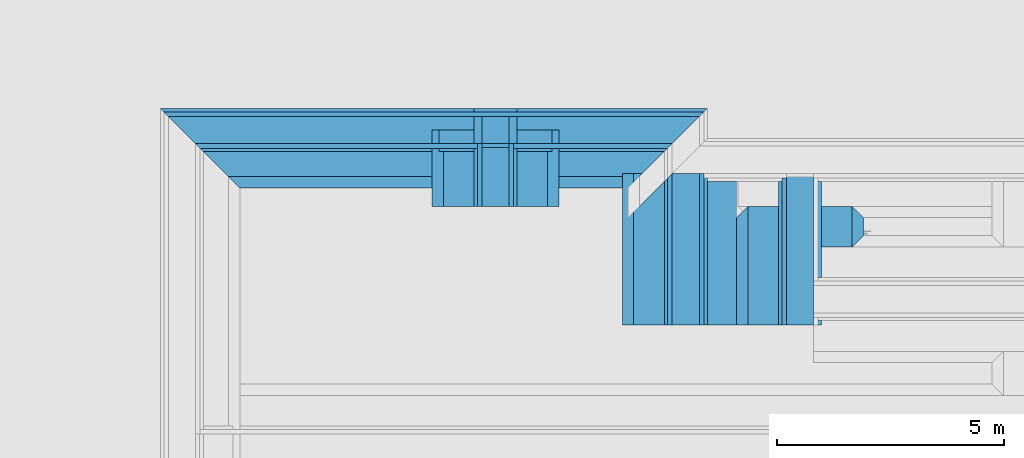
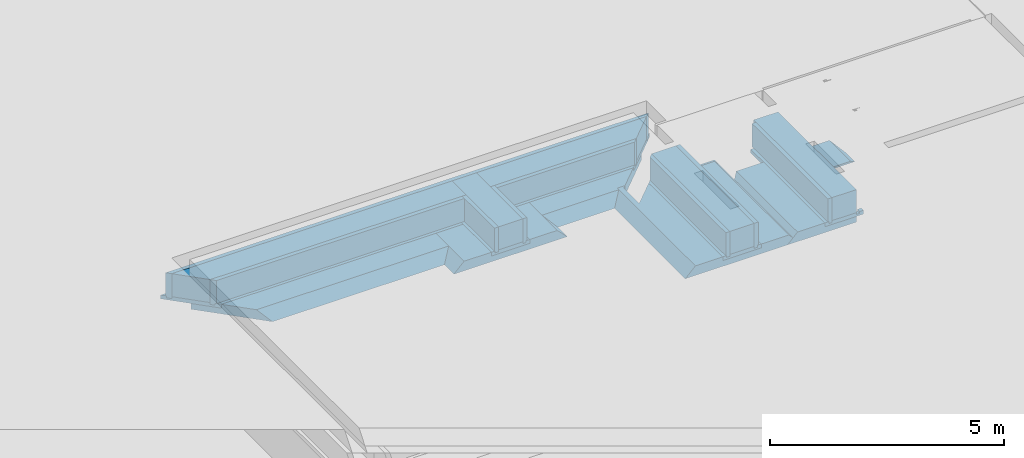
# One storey, part 3 of 15: 19 building element parts, 4 elements without a shape of their own.
"""IFC2X3 building model written with IfcOpenShell, lengths in millimetres."""

import ifcopenshell
import ifcopenshell.guid

model = None  # the IFC model being written
_history = None  # IfcOwnerHistory: only IFC2X3 demands one
_inside = {}  # id of a spatial element -> (the spatial element, [elements in it])
_under = {}  # id of a project, library or spatial element -> (it, [spatial elements below it])
_declared = {}  # id of a project -> (the project, [libraries it declares])
_typed = {}  # id of a type object -> (the type object, [elements of that type])
_made_of = {}  # id of a material, layer set ... -> (it, [elements and type objects made of it])


def new_model(schema):
    """Start an empty IFC model of exactly this schema.

    Asked for "IFC4X3", IfcOpenShell would pick the latest addendum, in which some entities
    have other attributes; the version numbers below select the first issue.
    IFC2X3 requires an IfcOwnerHistory on every rooted entity: one is made here for all.
    """
    global model, _history
    if schema == "IFC4X3":
        model = ifcopenshell.file(schema_version=(4, 3, 0, 0))
    else:
        model = ifcopenshell.file(schema=schema)
    _inside.clear()
    _under.clear()
    _declared.clear()
    _typed.clear()
    _made_of.clear()
    _history = None
    if model.schema == "IFC2X3":
        org = make("IfcOrganization", Name="unknown")
        user = make(
            "IfcPersonAndOrganization",
            ThePerson=make("IfcPerson", FamilyName="unknown"),
            TheOrganization=org,
        )
        app = make(
            "IfcApplication",
            ApplicationDeveloper=org,
            Version="unknown",
            ApplicationFullName="unknown",
            ApplicationIdentifier="unknown",
        )
        _history = make(
            "IfcOwnerHistory",
            OwningUser=user,
            OwningApplication=app,
            ChangeAction="ADDED",
            CreationDate=0,
        )
    return model


def make(cls, **values):
    """One entity of the class cls with the attributes given. An attribute that is None is left unset."""
    return model.create_entity(
        cls, **{name: value for name, value in values.items() if value is not None}
    )


def entity(cls, *values):
    """Any entity or typed value of the class cls, its attributes in the order of the schema. None: left unset."""
    e = model.create_entity(cls)
    for i, value in enumerate(values):
        if value is not None:
            e[i] = value
    return e


def rooted(cls, **values):
    """An entity with a GlobalId (a new one), such as an element, a storey or a relation."""
    return make(cls, GlobalId=ifcopenshell.guid.new(), OwnerHistory=_history, **values)


def si_unit(unit_type, name, prefix=None):
    """IfcSIUnit, for example si_unit("LENGTHUNIT", "METRE", prefix="MILLI")."""
    return make("IfcSIUnit", UnitType=unit_type, Prefix=prefix, Name=name)


def converted_unit(unit_type, name, factor, base, dimensions=None, offset=None):
    """IfcConversionBasedUnit, such as the inch: factor (a typed value) times the base unit."""
    return make(
        "IfcConversionBasedUnit"
        if offset is None
        else "IfcConversionBasedUnitWithOffset",
        ConversionOffset=offset,
        Dimensions=None
        if dimensions is None
        else entity("IfcDimensionalExponents", *dimensions),
        UnitType=unit_type,
        Name=name,
        ConversionFactor=make(
            "IfcMeasureWithUnit", ValueComponent=factor, UnitComponent=base
        ),
    )


def derived_unit(unit_type, elements):
    """IfcDerivedUnit: a product of units, each with its exponent."""
    return make(
        "IfcDerivedUnit",
        Elements=[
            make("IfcDerivedUnitElement", Unit=unit, Exponent=power)
            for unit, power in elements
        ],
        UnitType=unit_type,
    )


def money_unit(currency):
    """IfcMonetaryUnit."""
    return make("IfcMonetaryUnit", Currency=currency)


def assignment(units):
    """IfcUnitAssignment: the units of a project."""
    return None if units is None else make("IfcUnitAssignment", Units=units)


def point(xyz):
    """IfcCartesianPoint."""
    return None if xyz is None else make("IfcCartesianPoint", Coordinates=xyz)


def direction(xyz):
    """IfcDirection."""
    return None if xyz is None else make("IfcDirection", DirectionRatios=xyz)


def frame(location, z_axis=None, x_axis=None):
    """IfcAxis2Placement3D, a coordinate frame: its origin and axes. An axis left out is left unset."""
    return make(
        "IfcAxis2Placement3D",
        Location=point(location),
        Axis=direction(z_axis),
        RefDirection=direction(x_axis),
    )


def origin_with_axes():
    """The frame at (0, 0, 0) with the z axis (0, 0, 1) and the x axis (1, 0, 0) written out."""
    return frame((0.0, 0.0, 0.0), z_axis=(0.0, 0.0, 1.0), x_axis=(1.0, 0.0, 0.0))


def place(relative_to, where):
    """IfcLocalPlacement: puts the frame where relative to a parent placement (None: the world)."""
    return make(
        "IfcLocalPlacement", PlacementRelTo=relative_to, RelativePlacement=where
    )


def context(
    kind, dimensions, precision=None, world=None, true_north=None, identifier=None
):
    """IfcGeometricRepresentationContext, for example the 3D "Model" context."""
    return make(
        "IfcGeometricRepresentationContext",
        ContextIdentifier=identifier,
        ContextType=kind,
        CoordinateSpaceDimension=dimensions,
        Precision=precision,
        WorldCoordinateSystem=world,
        TrueNorth=true_north,
    )


def subcontext(parent, identifier, kind, view, scale=None):
    """IfcGeometricRepresentationSubContext, for example "Body" below "Model"."""
    return make(
        "IfcGeometricRepresentationSubContext",
        ContextIdentifier=identifier,
        ContextType=kind,
        ParentContext=parent,
        TargetScale=scale,
        TargetView=view,
    )


def project(units=None, contexts=None):
    """IfcProject with its units and contexts."""
    return rooted(
        "IfcProject",
        Name="project",
        RepresentationContexts=contexts,
        UnitsInContext=assignment(units),
    )


def spatial(cls, under=None, at=None, **own):
    """A site, building, storey or space (cls), placed at a placement, below another one or the project."""
    s = rooted(cls, ObjectPlacement=at, **own)
    if under is not None:
        _under.setdefault(under.id(), (under, []))[1].append(s)
    return s


def faces_of(points, faces, orient=None, outer=None):
    """IfcFace entities. A face is a list of loops; a loop is a list of indices into points, from 0.

    orient and outer hold one flag for each loop. By default every Orientation is true, the
    first loop of a face is its IfcFaceOuterBound and the others are IfcFaceBound.
    """
    made = []
    for i, loops in enumerate(faces):
        bounds = []
        for j, loop in enumerate(loops):
            is_outer = j == 0 if outer is None else outer[i][j]
            bounds.append(
                make(
                    "IfcFaceOuterBound" if is_outer else "IfcFaceBound",
                    Bound=make("IfcPolyLoop", Polygon=[points[k] for k in loop]),
                    Orientation=True if orient is None else orient[i][j],
                )
            )
        made.append(make("IfcFace", Bounds=bounds))
    return made


def faceted_brep(points, faces, orient=None, outer=None, voids=None):
    """IfcFacetedBrep: a solid bounded by flat faces; with voids (closed shells), ...WithVoids."""
    shared = [point(p) for p in points]
    hull = make("IfcClosedShell", CfsFaces=faces_of(shared, faces, orient, outer))
    if voids is None:
        return make("IfcFacetedBrep", Outer=hull)
    return make(
        "IfcFacetedBrepWithVoids",
        Outer=hull,
        Voids=[
            make(cls, CfsFaces=faces_of(shared, fs, o, b)) for cls, fs, o, b in voids
        ],
    )


def shape(context_of_items, identifier, shape_type, items):
    """IfcShapeRepresentation: the items that make up one representation, for example the "Body"."""
    return make(
        "IfcShapeRepresentation",
        ContextOfItems=context_of_items,
        RepresentationIdentifier=identifier,
        RepresentationType=shape_type,
        Items=items,
    )


def material(Name=None, Category=None):
    """IfcMaterial."""
    return make("IfcMaterial", Name=Name, Category=Category)


def made_of(thing, what):
    """Note that an element or type object is made of a material, layer set ...; save() writes the relation."""
    if what is not None:
        _made_of.setdefault(what.id(), (what, []))[1].append(thing)
    return thing


def type_object(cls, material=None, **own):
    """A type object (cls), such as IfcWallType, which elements share."""
    return made_of(rooted(cls, **own), material)


def element(
    cls,
    number,
    at=None,
    inside=None,
    cuts=None,
    type_object=None,
    material=None,
    context=None,
    identifier="Body",
    shape_type=None,
    held_by="IfcProductDefinitionShape",
    body=None,
    shapes=None,
    **own,
):
    """One element of the class cls, such as IfcWall. Its Tag is "e" and its number.

    at: its placement. inside: the storey or other place that contains it. cuts: it is an
    opening in that element (IfcRelVoidsElement). A single representation is given by context,
    identifier, shape_type and body (its items); several are given by shapes. held_by: the class
    of the entity that holds the representations. save() writes the other relations.
    """
    e = rooted(cls, Tag="e%d" % number, ObjectPlacement=at, **own)
    if body is not None:
        shapes = [shape(context, identifier, shape_type, body)]
    if shapes is not None:
        e.Representation = make(held_by, Representations=shapes)
    if inside is not None:
        _inside.setdefault(inside.id(), (inside, []))[1].append(e)
    if cuts is not None:
        rooted(
            "IfcRelVoidsElement", RelatingBuildingElement=cuts, RelatedOpeningElement=e
        )
    if type_object is not None:
        _typed.setdefault(type_object.id(), (type_object, []))[1].append(e)
    return made_of(e, material)


def aggregate(whole, parts):
    """IfcRelAggregates: a whole, such as a stair, and the parts it consists of."""
    return rooted("IfcRelAggregates", RelatingObject=whole, RelatedObjects=parts)


def save(model, path):
    """Write the relations noted so far, then the file.

    IfcRelAggregates (storeys below a building ...), IfcRelContainedInSpatialStructure (elements
    in a storey), IfcRelDefinesByType, IfcRelAssociatesMaterial and IfcRelDeclares: one each for
    every whole, place, type object, material and project.
    """
    for whole, parts in _under.values():
        aggregate(whole, parts)
    for where, things in _inside.values():
        rooted(
            "IfcRelContainedInSpatialStructure",
            RelatedElements=things,
            RelatingStructure=where,
        )
    for kind, things in _typed.values():
        rooted("IfcRelDefinesByType", RelatedObjects=things, RelatingType=kind)
    for what, things in _made_of.values():
        rooted("IfcRelAssociatesMaterial", RelatedObjects=things, RelatingMaterial=what)
    for by, libraries in _declared.values():
        rooted("IfcRelDeclares", RelatingContext=by, RelatedDefinitions=libraries)
    model.write(path)


model = new_model("IFC2X3")

# Units and contexts
model_context = context("Model", 3, precision=0.01, world=origin_with_axes(), true_north=direction((0.0, 1.0)))
plan_context = context("Plan", 3, precision=0.01, world=origin_with_axes(), true_north=direction((0.0, 1.0)))
body_context = subcontext(model_context, "Body", "Model", "MODEL_VIEW")
ifc_project = project(units=[si_unit("LENGTHUNIT", "METRE", prefix="MILLI"), si_unit("AREAUNIT", "SQUARE_METRE"), si_unit("VOLUMEUNIT", "CUBIC_METRE"), converted_unit("PLANEANGLEUNIT", "DEGREE", entity("IfcPlaneAngleMeasure", 0.0174532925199), si_unit("PLANEANGLEUNIT", "RADIAN"), dimensions=[0, 0, 0, 0, 0, 0, 0]), money_unit("EUR"), converted_unit("TIMEUNIT", "Year", entity("IfcTimeMeasure", 31556926.0), si_unit("TIMEUNIT", "SECOND"), dimensions=[0, 0, 1, 0, 0, 0, 0]), si_unit("MASSUNIT", "GRAM", prefix="KILO"), si_unit("THERMODYNAMICTEMPERATUREUNIT", "DEGREE_CELSIUS"), si_unit("LUMINOUSINTENSITYUNIT", "LUMEN"), si_unit("ENERGYUNIT", "JOULE", prefix="MEGA"), derived_unit("THERMALCONDUCTANCEUNIT", [(si_unit("POWERUNIT", "WATT"), 1), (si_unit("LENGTHUNIT", "METRE"), -1), (si_unit("THERMODYNAMICTEMPERATUREUNIT", "KELVIN"), -1)]), derived_unit("SPECIFICHEATCAPACITYUNIT", [(si_unit("ENERGYUNIT", "JOULE"), 1), (si_unit("MASSUNIT", "GRAM", prefix="KILO"), -1), (si_unit("THERMODYNAMICTEMPERATUREUNIT", "KELVIN"), -1)]), derived_unit("MASSDENSITYUNIT", [(si_unit("MASSUNIT", "GRAM", prefix="KILO"), 1), (si_unit("VOLUMEUNIT", "CUBIC_METRE"), -1)])], contexts=[model_context, plan_context])

# Site, building, storey
site_placement = place(None, origin_with_axes())
site = spatial("IfcSite", under=ifc_project, at=site_placement, Name="Site", CompositionType="ELEMENT")
building_placement = place(site_placement, origin_with_axes())
building = spatial("IfcBuilding", under=site, at=building_placement, Name="Naam gebouw", CompositionType="ELEMENT")
storey_placement = place(building_placement, frame((0.0, 0.0, -1050.0), z_axis=(0.0, 0.0, 1.0), x_axis=(1.0, 0.0, 0.0)))
storey = spatial("IfcBuildingStorey", under=building, at=storey_placement, Name="fundering", CompositionType="ELEMENT", Elevation=-1050.0)

# Beam, building element parts
beam_type_1 = type_object("IfcBeamType", Name="Fundering balk IsoBouw Powerkist buitenwand 1750 x 850", PredefinedType="BEAM")
beam_1_placement = place(storey_placement, frame((4850.0, 19150.0, -60.0000017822), z_axis=(0.0, 0.0, 1.0), x_axis=(0.0, -1.0, 0.0)))
beam_1 = element("IfcBeam", 1, at=beam_1_placement, inside=storey, type_object=beam_type_1, Name="28_Balk-x", ObjectType="BEAM")
ifc_material_1 = material(Name="ALG - TERREIN")
building_element_part_1_placement = place(beam_1_placement, origin_with_axes())
building_element_part_1 = element("IfcBuildingElementPart", 2, at=building_element_part_1_placement, material=ifc_material_1, Name="ALG - TERREIN", context=body_context, shape_type="Brep", body=[
    faceted_brep([(1045.00001313, 8087.50148378, 6.43760511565e-06), (1045.00001313, 9984.99960204, -1.92126834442e-05), (974.999997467, 9984.99960204, -1.92126834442e-05), (974.999997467, 10179.9991167, -7.27431315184e-06), (495.000015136, 10659.9999696, -7.27431315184e-06), (495.00000098, 8087.50148378, 3.72342601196e-07), (1295.00000274, 8337.50149432, -249.999996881), (1295.00000274, 9734.99962438, -249.999996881), (974.999997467, 9734.99962438, -249.999996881), (974.999997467, 10179.9991167, -249.999996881), (20.0000061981, 11135.00084, -249.999996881), (20.0000061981, 11135.00084, -99.9999926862), (495.000015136, 10659.9999696, -99.9999926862), (495.00000098, 8187.50149597, -99.9999985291), (20.0000061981, 8187.50150507, -99.9999926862), (19.9999899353, 8337.50149432, -249.999996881)], [[[0, 1, 2, 3, 4, 5]], [[6, 7, 1, 0]], [[8, 2, 1, 7]], [[8, 9, 3, 2]], [[4, 3, 9, 10, 11, 12]], [[4, 12, 13, 5]], [[5, 13, 14, 15, 6, 0]], [[9, 8, 7, 6, 15, 10]], [[11, 10, 15, 14]], [[12, 11, 14, 13]]]),
    faceted_brep([(1045.00001313, 5787.49851622, 6.43760511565e-06), (495.00000098, 5787.49851622, 3.72342601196e-07), (495.000015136, 495.000015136, -7.27431315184e-06), (1045.00001313, 1045.00001313, -7.27431315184e-06), (495.00000098, 5687.49850403, -99.9999985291), (1295.00000274, 5537.49850568, -249.999996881), (19.9999899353, 5537.49850568, -249.999996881), (20.0000061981, 5687.49849493, -99.9999926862), (495.000015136, 495.000015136, -99.9999926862), (1295.00000274, 1295.00000274, -249.999996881), (20.0000061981, 20.0000061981, -99.9999926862), (20.0000061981, 20.0000061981, -249.999996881)], [[[0, 1, 2, 3]], [[4, 1, 0, 5, 6, 7]], [[1, 4, 8, 2]], [[9, 3, 2, 8, 10, 11]], [[5, 0, 3, 9]], [[6, 5, 9, 11]], [[7, 6, 11, 10]], [[4, 7, 10, 8]]]),
])
ifc_material_2 = material(Name="Isolatie - EPS")
building_element_part_2_placement = place(beam_1_placement, origin_with_axes())
building_element_part_2 = element("IfcBuildingElementPart", 3, at=building_element_part_2_placement, material=ifc_material_2, Name="Isolatie - EPS", context=body_context, shape_type="Brep", body=[
    faceted_brep([(-360.000002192, -360.000002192, -49.0824410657), (-360.000002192, 6462.49850568, -49.0824424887), (-360.000002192, 7412.50149432, -49.0824424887), (-360.000002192, 11515.0015377, -49.0824410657), (-360.000002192, 11515.0015377, 7.15338899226e-07), (-360.000002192, -360.000002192, 7.15338899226e-07), (-279.99999279, -279.99999279, -49.0824410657), (-279.99999279, 6462.49850568, -49.0824424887), (-455.00000274, 6462.49850568, -49.0824424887), (-455.00000274, 7412.50149432, -49.0824424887), (-279.99999279, 7412.50149432, -49.0824424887), (-279.99999279, 11435.0013832, -49.0824410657), (319.99999279, 10835.0003093, -49.0824410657), (400.000002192, 10755.0001548, -49.0824410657), (400.000002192, 10755.0001548, 7.15338899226e-07), (419.999990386, 10735.0001304, 7.15338899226e-07), (495.00000274, 10659.999982, 7.15338899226e-07), (495.00000274, 10659.999982, -99.9999968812), (20.0000061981, 11135.00084, -99.9999926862), (-455.00000274, 11610.0017105, -99.9999968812), (-455.00000274, 11610.0017105, 7.15338899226e-07), (-379.999990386, 11535.0015621, 7.15338899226e-07), (-279.99999279, 11435.0013832, 7.15338899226e-07), (319.99999279, 10835.0003093, 7.15338899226e-07), (-379.999990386, -379.999990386, 7.15338899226e-07), (495.00000274, 495.00000274, 7.15338899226e-07), (419.999990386, 419.999990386, 7.15338899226e-07), (400.000002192, 400.000002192, 7.15338899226e-07), (400.000002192, 400.000002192, -49.0824410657), (319.99999279, 319.99999279, -49.0824410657), (319.99999279, 319.99999279, 7.15338899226e-07), (-279.99999279, -279.99999279, 7.15338899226e-07), (-455.00000274, -455.00000274, 7.15338899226e-07), (-455.00000274, -455.00000274, -99.9999968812), (20.0000061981, 20.0000061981, -99.9999926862), (495.00000274, 495.00000274, -99.9999968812), (20.0000061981, 6462.49850568, -99.9999968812), (-455.00000274, 6462.49850568, -99.9999968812), (319.99999279, 6462.49850568, -49.0824424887), (400.000002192, 6462.49850568, -49.0824424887), (400.000002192, 6462.49850568, -3.53883433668e-06), (419.999990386, 6462.49850568, -3.43367934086e-06), (495.00000274, 6462.49850568, -3.03934810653e-06), (495.00000274, 6462.49850568, -99.9999968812), (-455.00000274, 7412.50149432, -99.9999968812), (20.0000061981, 7412.50149432, -99.9999968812), (495.00000274, 7412.50149432, -99.9999968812), (495.00000274, 7412.50149432, -3.03934810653e-06), (419.999990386, 7412.50149432, -3.43367934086e-06), (400.000002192, 7412.50149432, -3.53883433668e-06), (400.000002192, 7412.50149432, -49.0824424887), (319.99999279, 7412.50149432, -49.0824424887)], [[[0, 1, 2, 3, 4, 5]], [[6, 7, 1, 0]], [[1, 8, 9, 2]], [[3, 2, 10, 11]], [[12, 13, 14, 15, 16, 17, 18, 19, 20, 21, 4, 3, 11, 22, 23]], [[24, 5, 4, 21]], [[25, 26, 27, 28, 29, 30, 31, 6, 0, 5, 24, 32, 33, 34, 35]], [[11, 10, 7, 6, 31, 22]], [[36, 37, 8, 1, 7, 38, 39, 40, 41, 42, 43]], [[9, 8, 37, 33, 32, 20, 19, 44]], [[2, 9, 44, 45, 46, 47, 48, 49, 50, 51, 10]], [[12, 51, 50, 13]], [[13, 50, 49, 14]], [[14, 49, 48, 15]], [[15, 48, 47, 16]], [[16, 47, 46, 17]], [[17, 46, 45, 18]], [[18, 45, 44, 19]], [[32, 24, 21, 20]], [[31, 30, 23, 22]], [[29, 38, 51, 12, 23, 30]], [[25, 42, 41, 26]], [[26, 41, 40, 27]], [[27, 40, 39, 28]], [[28, 39, 38, 29]], [[33, 37, 36, 34]], [[34, 36, 43, 35]], [[35, 43, 42, 25]], [[38, 7, 10, 51]]]),
])
building_element_part_3_placement = place(beam_1_placement, origin_with_axes())
building_element_part_3 = element("IfcBuildingElementPart", 4, at=building_element_part_3_placement, material=ifc_material_2, Name="Isolatie - EPS", context=body_context, shape_type="Brep", body=[
    faceted_brep([(-359.999996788, -359.999996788, 2.28759100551e-06), (-379.999993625, -379.999993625, 2.28759100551e-06), (-379.999993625, 11535.0015654, 2.28759100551e-06), (-359.999996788, 11515.0015323, 2.28759100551e-06), (-279.999999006, -279.999999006, 600.000001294), (-379.999993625, -379.999993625, 600.000001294), (-359.999996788, -359.999996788, -49.0824424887), (-279.999999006, -279.999999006, -49.0824424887), (-379.999993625, 11535.0015654, 600.000001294), (-359.999996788, 11515.0015323, -49.0824424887), (-279.999999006, 11435.0013894, 600.000001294), (-279.999999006, 11435.0013894, -49.0824424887)], [[[0, 1, 2, 3]], [[4, 5, 1, 0, 6, 7]], [[1, 5, 8, 2]], [[9, 3, 2, 8, 10, 11]], [[6, 0, 3, 9]], [[5, 4, 10, 8]], [[7, 6, 9, 11]], [[4, 7, 11, 10]]]),
])
building_element_part_4_placement = place(beam_1_placement, origin_with_axes())
building_element_part_4 = element("IfcBuildingElementPart", 5, at=building_element_part_4_placement, material=ifc_material_2, Name="Isolatie - EPS", context=body_context, shape_type="Brep", body=[
    faceted_brep([(320.000001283, 6537.4985148, -3.53883433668e-06), (320.000001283, 6637.49850792, -3.53883433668e-06), (320.000001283, 7237.50149208, -3.53883433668e-06), (320.000001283, 7337.5014852, -3.53883433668e-06), (320.000001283, 7337.5014852, 600.000003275), (319.999999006, 10835.0003031, 600.000003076), (319.999999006, 10835.0003031, -49.0824407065), (319.999999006, 319.999999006, -49.0824407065), (319.999999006, 319.999999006, 600.000003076), (320.000001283, 6537.4985148, 600.000003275), (400.000002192, 6557.49850727, -3.53883433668e-06), (400.000002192, 6637.49851307, -3.53883433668e-06), (400.000002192, 6537.49851289, -3.53883433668e-06), (400.000002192, 7237.50148693, -3.53883433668e-06), (400.000002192, 7317.50149273, -3.53883433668e-06), (400.000002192, 7337.50148711, -3.53883433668e-06), (419.999993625, 7337.50148711, -3.43367934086e-06), (419.999993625, 7337.5014852, 600.000003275), (419.999993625, 10735.0001271, 600.000003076), (399.999996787, 10755.0001602, -49.0824407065), (419.999993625, 10735.0001271, 4.06975675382e-06), (399.999996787, 10755.0001602, 4.06975675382e-06), (399.999996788, 399.999996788, -49.0824407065), (399.999996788, 399.999996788, 4.06975675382e-06), (419.999993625, 419.999993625, 4.06975675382e-06), (419.999993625, 419.999993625, 600.000003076), (419.999993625, 6537.4985148, 600.000003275), (419.999993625, 6537.49851289, -3.43367934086e-06)], [[[0, 1, 2, 3, 4, 5, 6, 7, 8, 9]], [[10, 11, 1, 0, 12]], [[11, 13, 2, 1]], [[14, 15, 3, 2, 13]], [[15, 16, 17, 4, 3]], [[18, 5, 4, 17]], [[19, 6, 5, 18, 20, 21]], [[19, 22, 7, 6]], [[22, 23, 24, 25, 8, 7]], [[8, 25, 26, 9]], [[27, 12, 0, 9, 26]], [[13, 11, 10, 12, 23, 22, 19, 21, 15, 14]], [[21, 20, 16, 15]], [[20, 18, 17, 16]], [[24, 23, 12, 27]], [[25, 24, 27, 26]]]),
])
ifc_material_3 = material(Name="Beton gewapend C")
building_element_part_5_placement = place(beam_1_placement, origin_with_axes())
building_element_part_5 = element("IfcBuildingElementPart", 6, at=building_element_part_5_placement, material=ifc_material_3, Name="Beton gewapend C", context=body_context, shape_type="Brep", body=[
    faceted_brep([(320.0, 320.0, 600.000001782), (320.0, 6637.49850842, 600.000001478), (-280.000002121, 6637.49850842, 600.000002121), (-280.0, -280.0, 600.0), (320.0, 320.0, 1.78216552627e-06), (320.0, 6637.49850842, 0.0), (-280.000002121, 6637.49850842, 0.0), (-280.0, -280.0, 0.0)], [[[0, 1, 2, 3]], [[4, 5, 1, 0]], [[5, 6, 2, 1]], [[3, 2, 6, 7]], [[7, 4, 0, 3]], [[7, 6, 5, 4]]]),
    faceted_brep([(-280.0, 11435.0013904, 0.0), (-280.000002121, 7237.50149158, 0.0), (-280.000002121, 7237.50149158, 600.000002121), (-280.0, 11435.0013904, 600.0), (320.0, 10835.0003021, 1.78216552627e-06), (320.0, 7237.50149158, 0.0), (320.0, 7237.50149158, 600.000001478), (320.0, 10835.0003021, 600.000001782)], [[[0, 1, 2, 3]], [[4, 5, 1, 0]], [[5, 6, 2, 1]], [[3, 2, 6, 7]], [[0, 3, 7, 4]], [[7, 6, 5, 4]]]),
])
aggregate(beam_1, [building_element_part_1, building_element_part_2, building_element_part_3, building_element_part_4, building_element_part_5])

beam_type_2 = type_object("IfcBeamType", Name="Fundering balk IsoBouw Powerkist 2800 x 850", PredefinedType="BEAM")
beam_2_placement = place(storey_placement, frame((16005.0, 18175.0000025, -60.0000017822), z_axis=(0.0, 0.0, 1.0), x_axis=(-1.0, 0.0, 0.0)))
beam_2 = element("IfcBeam", 7, at=beam_2_placement, inside=storey, type_object=beam_type_2, Name="28_Balk-x", ObjectType="BEAM")
building_element_part_6_placement = place(beam_2_placement, origin_with_axes())
building_element_part_6 = element("IfcBuildingElementPart", 8, at=building_element_part_6_placement, material=ifc_material_1, Name="ALG - TERREIN", context=body_context, shape_type="Brep", body=[
    faceted_brep([(-455.000395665, 0.0, -99.999995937), (-1230.00037468, 2.52690313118e-07, -99.999995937), (-1240.0, 0.0, -109.999621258), (-1099.99962438, 0.0, -249.999999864), (320.000883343, 0.0, -249.999996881), (320.000883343, 0.0, -99.9999926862), (-1230.00037819, 175.000005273, -99.9999994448), (-455.000395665, 175.000005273, -99.9999997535), (-1130.00039795, 175.000005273, -2.31903696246e-06), (-1130.00039795, 3344.99999323, -1.92126834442e-05), (-1240.0, 3344.99999323, -109.999621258), (-1099.99962438, 3344.99999323, -249.999996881), (1295.00146901, 320.000005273, -249.999996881), (1295.00265701, 975.000005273, -249.999996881), (1420.00037562, 3344.99999323, -249.999996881), (1420.00037562, 0.0, -249.999996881), (975.000883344, 0.0, -249.999996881), (495.001218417, 175.000017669, -7.27431315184e-06), (495.001218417, 175.000017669, -99.9999926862), (1045.00221397, 725.000015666, -7.27431315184e-06), (495.000395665, 3344.99999323, -100.00001028), (-455.000395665, 3344.99999323, -100.00001028), (-455.000395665, 175.000005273, -2.4089343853e-06), (-455.000395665, 3344.99999323, 2.25106189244e-05), (1170.00039795, 3344.99999323, -1.92126834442e-05), (495.000395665, 3344.99999323, 2.25106189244e-05), (1045.00102597, 70.000015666, -7.27431315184e-06), (1170.00039795, 0.0, -1.92126834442e-05), (975.000883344, 0.0, -7.27431315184e-06)], [[[0, 1, 2, 3, 4, 5]], [[6, 1, 0, 7]], [[6, 8, 9, 10, 2, 1]], [[10, 11, 3, 2]], [[12, 13, 4, 3, 11, 14, 15, 16]], [[17, 18, 5, 4, 13, 19]], [[7, 0, 5, 18, 20, 21]], [[8, 6, 7, 22]], [[8, 22, 23, 9]], [[24, 14, 11, 10, 9, 23, 21, 20, 25]], [[12, 26, 19, 13]], [[24, 27, 15, 14]], [[27, 28, 16, 15]], [[12, 16, 28, 26]], [[20, 18, 17, 25]], [[19, 26, 28, 27, 24, 25, 17]], [[22, 7, 21, 23]]]),
])
building_element_part_7_placement = place(beam_2_placement, origin_with_axes())
building_element_part_7 = element("IfcBuildingElementPart", 9, at=building_element_part_7_placement, material=ifc_material_2, Name="Isolatie - EPS", context=body_context, shape_type="Brep", body=[
    faceted_brep([(-455.000375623, 0.0, -99.9999968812), (320.000883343, 0.0, -99.9999953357), (320.000878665, -4.67715466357e-06, -49.0824410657), (320.000369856, 0.0, 8.43651903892e-06), (-280.000369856, 0.0, 8.43651903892e-06), (-280.000369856, 0.0, -49.0824435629), (-360.000371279, 0.0, -49.0824435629), (-360.000371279, 0.0, 8.43651903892e-06), (-380.000361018, 0.0, 8.43651903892e-06), (-455.000375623, 0.0, 8.43651903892e-06), (495.000375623, 3344.99999323, -99.9999968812), (495.00120602, 175.000005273, -99.9999968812), (-455.000375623, 3344.99999323, -99.9999968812), (400.001033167, 80.000004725, 7.15338899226e-07), (400.001033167, 80.000004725, -49.0824410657), (495.00120602, 175.000005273, 7.15338899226e-07), (420.001057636, 99.9999929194, 7.15338899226e-07), (320.000369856, 3344.99999323, -49.0824435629), (320.000369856, 3344.99999323, 8.43651903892e-06), (-280.000369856, 3344.99999323, 8.43651903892e-06), (-280.000369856, 3344.99999323, -49.0824435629), (-360.000371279, 3344.99999323, -49.0824435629), (-360.000371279, 3344.99999323, 8.43651903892e-06), (-380.000361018, 3344.99999323, 8.43651903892e-06), (-455.000375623, 3344.99999323, 8.43651903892e-06), (495.000375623, 3344.99999323, 8.43651926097e-06), (400.000371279, 3344.99999323, -49.0824435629), (400.000371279, 3344.99999323, 8.43651903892e-06), (420.000361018, 3344.99999323, 8.43651903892e-06)], [[[0, 1, 2, 3, 4, 5, 6, 7, 8, 9]], [[10, 11, 1, 0, 12]], [[13, 14, 2, 1, 11, 15, 16]], [[3, 2, 17, 18]], [[4, 3, 18, 19]], [[5, 4, 19, 20]], [[6, 5, 20, 21]], [[7, 6, 21, 22]], [[8, 7, 22, 23]], [[9, 8, 23, 24]], [[0, 9, 24, 12]], [[25, 15, 11, 10]], [[17, 26, 27, 28, 25, 10, 12, 24, 23, 22, 21, 20, 19, 18]], [[26, 14, 13, 27]], [[17, 2, 14, 26]], [[28, 16, 15, 25]], [[27, 13, 16, 28]]]),
])
building_element_part_8_placement = place(beam_2_placement, origin_with_axes())
building_element_part_8 = element("IfcBuildingElementPart", 10, at=building_element_part_8_placement, material=ifc_material_2, Name="Isolatie - EPS", context=body_context, shape_type="Brep", body=[
    faceted_brep([(-360.000369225, 3344.99999323, 2.4249691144e-06), (-360.000369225, 0.0, 2.4249691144e-06), (-380.000366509, 0.0, 2.4249691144e-06), (-380.000366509, 3344.99999323, 2.4249691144e-06), (-360.000369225, 3344.99999323, -49.0824424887), (-360.000369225, 0.0, -49.0824424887), (-280.00036966, 0.0, -49.0824424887), (-280.00036966, 0.0, 600.000004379), (-380.000366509, 0.0, 600.000004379), (-380.000366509, 3344.99999323, 600.000004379), (-280.00036966, 3344.99999323, -49.0824424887), (-280.00036966, 3344.99999323, 600.000004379)], [[[0, 1, 2, 3]], [[4, 5, 1, 0]], [[6, 7, 8, 2, 1, 5]], [[3, 2, 8, 9]], [[10, 4, 0, 3, 9, 11]], [[10, 6, 5, 4]], [[11, 7, 6, 10]], [[9, 8, 7, 11]]]),
])
building_element_part_9_placement = place(beam_2_placement, origin_with_axes())
building_element_part_9 = element("IfcBuildingElementPart", 11, at=building_element_part_9_placement, material=ifc_material_2, Name="Isolatie - EPS", context=body_context, shape_type="Brep", body=[
    faceted_brep([(320.00036966, 3344.99999323, 600.000004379), (320.00036966, 3344.99999323, -49.0824424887), (320.000884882, 1.53937307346e-06, -49.0824407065), (320.000884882, 1.53937307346e-06, 600.000003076), (400.000369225, 3344.99999323, -49.0824424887), (420.000366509, 3344.99999323, 600.000004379), (420.000366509, 3344.99999323, 2.4249691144e-06), (400.000369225, 3344.99999323, 2.4249691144e-06), (400.001027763, 79.9999993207, -49.0824407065), (400.001027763, 79.9999993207, 4.06975675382e-06), (420.001060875, 99.9999961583, 4.06975675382e-06), (420.001060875, 99.9999961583, 600.000003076)], [[[0, 1, 2, 3]], [[4, 1, 0, 5, 6, 7]], [[1, 4, 8, 2]], [[9, 10, 11, 3, 2, 8]], [[5, 0, 3, 11]], [[6, 5, 11, 10]], [[7, 6, 10, 9]], [[4, 7, 9, 8]]]),
])
building_element_part_10_placement = place(beam_2_placement, origin_with_axes())
building_element_part_10 = element("IfcBuildingElementPart", 12, at=building_element_part_10_placement, material=ifc_material_3, Name="Beton gewapend C", context=body_context, shape_type="Brep", body=[
    faceted_brep([(-280.000372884, 0.0, 600.0), (320.000372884, 0.0, 600.0), (320.000372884, 3344.99999323, 600.0), (-280.000372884, 3344.99999323, 600.0), (-280.000372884, 0.0, 0.0), (320.000372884, 0.0, 0.0), (320.000372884, 3344.99999323, 0.0), (-280.000372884, 3344.99999323, 0.0)], [[[0, 1, 2, 3]], [[4, 5, 1, 0]], [[1, 5, 6, 2]], [[7, 3, 2, 6]], [[4, 0, 3, 7]], [[5, 4, 7, 6]]]),
])
aggregate(beam_2, [building_element_part_6, building_element_part_7, building_element_part_8, building_element_part_9, building_element_part_10])

beam_3_placement = place(storey_placement, frame((18505.0, 18495.0, -60.0000017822), z_axis=(0.0, 0.0, 1.0), x_axis=(-1.0, 0.0, 0.0)))
beam_3 = element("IfcBeam", 13, at=beam_3_placement, inside=storey, type_object=beam_type_2, Name="28_Balk-x", ObjectType="BEAM")
building_element_part_11_placement = place(beam_3_placement, origin_with_axes())
building_element_part_11 = element("IfcBuildingElementPart", 14, at=building_element_part_11_placement, material=ifc_material_1, Name="ALG - TERREIN", context=body_context, shape_type="Brep", body=[
    faceted_brep([(1400.00037562, 1295.00000274, -249.999999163), (-1400.00037562, 1295.00000274, -249.99999803), (-1400.00037562, 1694.99962438, -249.999996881), (-300.0, 1694.99962438, -249.999996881), (-300.0, 3664.9999907, -249.999996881), (1400.00037562, 3664.9999907, -249.999996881), (-1150.00039795, 1045.00001313, -1.03215438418e-05), (1150.00039795, 1045.00001313, -1.04212669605e-05), (475.000395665, 1045.00001313, -1.03920003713e-05), (475.000395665, 1145.00001656, -100.000010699), (-475.000395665, 1145.00001069, -100.000004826), (-475.000395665, 1045.00001313, -1.0350810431e-05), (-1150.00039795, 1944.99960205, -1.49225507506e-05), (-300.0, 1844.99961037, -100.000010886), (-475.000395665, 1944.99960205, -1.83294193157e-05), (-475.000395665, 1844.99959565, -100.000001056), (-300.0, 3664.9999907, -100.00001028), (-300.0, 2619.99960434, -100.00001028), (-300.0, 3570.00039566, -100.00001028), (475.000395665, 3664.9999907, -100.00001028), (475.000395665, 3664.9999907, 2.25106187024e-05), (1150.00039795, 3664.9999907, -1.92126836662e-05)], [[[0, 1, 2, 3, 4, 5]], [[6, 1, 0, 7, 8, 9, 10, 11]], [[1, 6, 12, 2]], [[13, 3, 2, 12, 14, 15]], [[16, 4, 3, 13, 17, 18]], [[5, 4, 16, 19, 20, 21]], [[7, 0, 5, 21]], [[8, 7, 21, 20]], [[9, 8, 20, 19]], [[10, 9, 19, 16, 18, 17, 13, 15]], [[11, 10, 15, 14]], [[6, 11, 14, 12]]]),
])
building_element_part_12_placement = place(beam_3_placement, origin_with_axes())
building_element_part_12 = element("IfcBuildingElementPart", 15, at=building_element_part_12_placement, material=ifc_material_2, Name="Isolatie - EPS", context=body_context, shape_type="Brep", body=[
    faceted_brep([(-475.000375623, 495.00000274, -100.000000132), (-475.000375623, 495.00000274, -2.5354569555e-06), (-475.000375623, 2619.99962438, 8.43651903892e-06), (-475.000375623, 2619.99962438, -99.9999968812), (-400.000361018, 495.00000274, -2.5354569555e-06), (475.000375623, 495.00000274, -100.000000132), (475.000375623, 495.00000274, -2.5354569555e-06), (400.000361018, 495.00000274, -2.5354569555e-06), (380.000371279, 495.00000274, -2.5354569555e-06), (380.000371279, 495.00000274, -49.0824435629), (300.000369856, 495.00000274, -49.0824435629), (300.000369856, 495.00000274, -2.5354569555e-06), (-300.000369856, 495.00000274, -2.5354569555e-06), (-300.000255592, 495.00000274, -49.0824435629), (-380.000371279, 495.00000274, -49.082443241), (-380.000371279, 495.00000274, -2.5354569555e-06), (-400.000361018, 2619.99962438, 8.43651903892e-06), (-300.0, 2619.99962438, -99.9999968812), (-380.000371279, 2619.99962438, 8.43651903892e-06), (-380.000371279, 2619.99962438, -49.0824425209), (-300.0, 2619.99962438, -49.0824435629), (-300.0, 3570.00037562, -99.9999968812), (-475.000375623, 3570.00037562, -99.9999968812), (-475.000375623, 3664.9999907, -99.9999968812), (475.000375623, 3664.9999907, -99.9999968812), (475.000375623, 3664.9999907, 8.43651903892e-06), (400.000361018, 3664.9999907, 8.43651903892e-06), (380.000371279, 3664.9999907, 8.43651903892e-06), (380.000371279, 3664.9999907, -49.0824435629), (300.000369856, 3664.9999907, -49.0824435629), (300.000369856, 3664.9999907, 8.43651903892e-06), (-300.000369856, 3664.9999907, 8.43651926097e-06), (-300.000369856, 3664.9999907, -49.0824435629), (-300.0, 3570.00037562, -49.0824435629), (-380.000371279, 3570.00037562, 8.43651926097e-06), (-400.000361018, 3570.00037562, 8.43651926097e-06), (-475.000375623, 3570.00037562, 8.43651926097e-06), (-380.000371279, 3570.00037562, -49.0824430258), (-475.000375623, 3664.9999907, 8.43651926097e-06), (-400.000361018, 3664.9999907, 8.43651926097e-06), (-380.000371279, 3664.9999907, 8.43651926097e-06), (-380.000371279, 3664.9999907, -49.0824435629)], [[[0, 1, 2, 3]], [[4, 1, 0, 5, 6, 7, 8, 9, 10, 11, 12, 13, 14, 15]], [[1, 4, 16, 2]], [[17, 3, 2, 16, 18, 19, 20]], [[5, 0, 3, 17, 21, 22, 23, 24]], [[6, 5, 24, 25]], [[7, 6, 25, 26]], [[8, 7, 26, 27]], [[9, 8, 27, 28]], [[10, 9, 28, 29]], [[11, 10, 29, 30]], [[12, 11, 30, 31]], [[13, 12, 31, 32, 33, 21, 17, 20]], [[14, 13, 20, 19]], [[15, 14, 19, 18]], [[4, 15, 18, 16]], [[34, 35, 36, 22, 21, 33, 37]], [[23, 22, 36, 38]], [[24, 23, 38, 39, 40, 41, 32, 31, 30, 29, 28, 27, 26, 25]], [[41, 37, 33, 32]], [[39, 35, 34, 40]], [[38, 36, 35, 39]], [[40, 34, 37, 41]]]),
])
building_element_part_13_placement = place(beam_3_placement, origin_with_axes())
building_element_part_13 = element("IfcBuildingElementPart", 16, at=building_element_part_13_placement, material=ifc_material_2, Name="Isolatie - EPS", context=body_context, shape_type="Brep", body=[
    faceted_brep([(300.00036966, 495.00000274, -49.0824424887), (300.00036966, 495.00000274, -2.5354569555e-06), (300.00036966, 419.999990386, -2.5354569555e-06), (300.00036966, 419.999990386, 599.9999972), (300.00036966, 3664.9999907, 600.000004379), (300.00036966, 3664.9999907, -49.0824424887), (380.000369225, 495.00000274, -2.5354569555e-06), (380.000369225, 495.00000274, -49.0824424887), (400.000366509, 3664.9999907, 2.4249691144e-06), (400.000366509, 419.999990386, -2.5354569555e-06), (380.000369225, 3664.9999907, 2.4249691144e-06), (400.000366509, 419.999990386, 599.9999972), (400.000366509, 3664.9999907, 600.000004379), (380.000369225, 3664.9999907, -49.0824424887)], [[[0, 1, 2, 3, 4, 5]], [[6, 1, 0, 7]], [[8, 9, 2, 1, 6, 10]], [[9, 11, 3, 2]], [[4, 3, 11, 12]], [[13, 5, 4, 12, 8, 10]], [[13, 7, 0, 5]], [[10, 6, 7, 13]], [[12, 11, 9, 8]]]),
])
building_element_part_14_placement = place(beam_3_placement, origin_with_axes())
building_element_part_14 = element("IfcBuildingElementPart", 17, at=building_element_part_14_placement, material=ifc_material_3, Name="Beton gewapend C", context=body_context, shape_type="Brep", body=[
    faceted_brep([(-300.000372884, 3664.9999907, 0.0), (-300.000372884, 320.0, -1.46863032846e-06), (-300.000372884, 320.0, 599.999998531), (-300.000372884, 3664.9999907, 600.0), (300.000372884, 3664.9999907, 0.0), (300.000372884, 320.0, -1.46863032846e-06), (300.000372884, 320.0, 599.999998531), (300.000372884, 3664.9999907, 600.0)], [[[0, 1, 2, 3]], [[4, 5, 1, 0]], [[5, 6, 2, 1]], [[3, 2, 6, 7]], [[0, 3, 7, 4]], [[7, 6, 5, 4]]]),
])
aggregate(beam_3, [building_element_part_11, building_element_part_12, building_element_part_13, building_element_part_14])

beam_4_placement = place(storey_placement, frame((11787.5, 19150.0, -60.0000017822), z_axis=(0.0, 0.0, 1.0), x_axis=(-1.0, 0.0, 0.0)))
beam_4 = element("IfcBeam", 18, at=beam_4_placement, inside=storey, type_object=beam_type_2, Name="28_Balk-x", ObjectType="BEAM")
building_element_part_15_placement = place(beam_4_placement, origin_with_axes())
building_element_part_15 = element("IfcBuildingElementPart", 19, at=building_element_part_15_placement, material=ifc_material_1, Name="ALG - TERREIN", context=body_context, shape_type="Brep", body=[
    faceted_brep([(-475.001484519, 20.0000061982, -99.9999926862), (-1250.00150507, 20.0000061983, -99.9999926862), (-1400.00149432, 19.9999899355, -249.999996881), (1400.00149432, 19.9999899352, -249.999996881), (1250.00150507, 20.000006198, -99.9999926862), (475.001484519, 20.0000061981, -99.9999926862), (-475.001484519, 495.00000098, -99.9999985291), (-1250.00149597, 495.00000098, -99.9999985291), (1250.00149597, 495.00000098, -99.9999985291), (475.001484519, 495.00000098, -99.9999985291), (475.001484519, 1700.0, -100.00001559), (-475.001484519, 1700.0, -100.00001559), (-1150.00148378, 495.00000098, 3.72342601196e-07), (-1150.00148378, 1700.0, 1.36607809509e-05), (-1400.00149432, 1700.0, -249.999996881), (1400.00149432, 1700.0, -249.999996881), (1150.00148378, 1700.0, 1.36607811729e-05), (1150.00148378, 495.00000098, 3.72342601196e-07), (-475.001484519, 495.00000098, 3.72342601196e-07), (475.001484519, 495.00000098, 3.72342601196e-07), (475.001484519, 1700.0, 1.36607811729e-05), (-475.001484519, 1700.0, 1.36607809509e-05)], [[[0, 1, 2, 3, 4, 5]], [[6, 7, 1, 0, 5, 4, 8, 9, 10, 11]], [[7, 12, 13, 14, 2, 1]], [[15, 3, 2, 14]], [[8, 4, 3, 15, 16, 17]], [[12, 7, 6, 18]], [[17, 19, 9, 8]], [[9, 19, 20, 10]], [[11, 10, 20, 16, 15, 14, 13, 21]], [[18, 6, 11, 21]], [[12, 18, 21, 13]], [[19, 17, 16, 20]]]),
])
building_element_part_16_placement = place(beam_4_placement, origin_with_axes())
building_element_part_16 = element("IfcBuildingElementPart", 20, at=building_element_part_16_placement, material=ifc_material_2, Name="Isolatie - EPS", context=body_context, shape_type="Brep", body=[
    faceted_brep([(-475.001494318, -455.00000274, -49.0824424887), (-475.001494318, -455.00000274, -99.9999968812), (475.001494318, -455.00000274, -99.9999968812), (475.001494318, -455.00000274, -49.0824424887), (-475.001494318, 400.000002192, -49.0824424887), (-475.001494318, 400.000002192, -3.53883433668e-06), (-475.001494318, 1700.0, 3.29624127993e-06), (-475.001494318, 1700.0, -99.9999968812), (475.001494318, 1700.0, -99.9999968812), (475.001494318, 400.000002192, -49.0824424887), (475.001494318, 1700.0, 3.29624150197e-06), (475.001494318, 400.000002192, -3.53883433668e-06), (300.001486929, 400.000002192, -49.0824424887), (-300.001486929, 400.000002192, -49.0824424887), (-300.001486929, 1700.0, -49.082436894), (-380.001492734, 1700.0, -49.082436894), (-380.001492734, 400.000002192, -49.0824424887), (380.001492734, 400.000002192, -49.0824424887), (380.001492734, 1700.0, -49.082436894), (300.001486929, 1700.0, -49.082436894), (-400.001487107, 400.000002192, -3.53883433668e-06), (-380.001492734, 400.000002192, -3.53883433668e-06), (-400.001487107, 1700.0, 3.29624127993e-06), (380.001492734, 1700.0, 3.29624150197e-06), (400.001487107, 1700.0, 3.29624150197e-06), (-380.001492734, 1700.0, 3.29624127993e-06), (-300.001486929, 1700.0, 3.29624127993e-06), (300.001486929, 1700.0, 3.29624150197e-06), (400.001487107, 400.000002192, -3.53883433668e-06), (380.001492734, 400.000002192, -3.53883433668e-06), (300.001486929, 400.000002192, -3.53883433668e-06), (-300.001486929, 400.000002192, -3.53883433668e-06)], [[[0, 1, 2, 3]], [[4, 5, 6, 7, 1, 0]], [[2, 1, 7, 8]], [[9, 3, 2, 8, 10, 11]], [[12, 13, 14, 15, 16, 4, 0, 3, 9, 17, 18, 19]], [[20, 5, 4, 16, 21]], [[5, 20, 22, 6]], [[19, 18, 23, 24, 10, 8, 7, 6, 22, 25, 15, 14, 26, 27]], [[28, 11, 10, 24]], [[28, 29, 17, 9, 11]], [[30, 31, 13, 12]], [[13, 31, 26, 14]], [[21, 16, 15, 25]], [[17, 29, 23, 18]], [[30, 12, 19, 27]], [[20, 21, 25, 22]], [[29, 28, 24, 23]], [[31, 30, 27, 26]]]),
])
building_element_part_17_placement = place(beam_4_placement, origin_with_axes())
building_element_part_17 = element("IfcBuildingElementPart", 21, at=building_element_part_17_placement, material=ifc_material_2, Name="Isolatie - EPS", context=body_context, shape_type="Brep", body=[
    faceted_brep([(-400.001485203, 1700.0, 2.84254531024e-06), (-400.001485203, 320.000001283, -3.53883433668e-06), (-400.001485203, 320.000001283, 600.000003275), (-400.001485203, 1700.0, 600.000003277), (-300.001492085, 400.000002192, -3.53883433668e-06), (-300.001492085, 320.000001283, -3.53883433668e-06), (-380.00149701, 1700.0, 2.84254531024e-06), (-380.00149701, 400.000002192, -3.53883433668e-06), (-300.001492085, 320.000001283, 600.000003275), (-300.001492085, 1700.0, 600.000003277), (-300.001492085, 1700.0, -49.0824424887), (-380.00149701, 1700.0, -49.0824424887), (-300.001492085, 400.000002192, -49.0824424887), (-380.00149701, 400.000002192, -49.0824424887)], [[[0, 1, 2, 3]], [[4, 5, 1, 0, 6, 7]], [[5, 8, 2, 1]], [[3, 2, 8, 9]], [[10, 11, 6, 0, 3, 9]], [[5, 4, 12, 10, 9, 8]], [[11, 13, 7, 6]], [[4, 7, 13, 12]], [[10, 12, 13, 11]]]),
])
building_element_part_18_placement = place(beam_4_placement, origin_with_axes())
building_element_part_18 = element("IfcBuildingElementPart", 22, at=building_element_part_18_placement, material=ifc_material_2, Name="Isolatie - EPS", context=body_context, shape_type="Brep", body=[
    faceted_brep([(300.001492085, 400.000002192, -49.0824424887), (300.001492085, 400.000002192, -3.53883433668e-06), (300.001492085, 320.000001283, -3.53883433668e-06), (300.001492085, 320.000001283, 600.000003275), (300.001492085, 1700.0, 600.000003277), (300.001492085, 1700.0, -49.0824424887), (380.00149701, 400.000002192, -3.53883433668e-06), (380.00149701, 400.000002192, -49.0824424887), (400.001485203, 1700.0, 2.84254553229e-06), (400.001485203, 320.000001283, -3.53883433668e-06), (380.00149701, 1700.0, 2.84254553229e-06), (400.001485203, 320.000001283, 600.000003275), (400.001485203, 1700.0, 600.000003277), (380.00149701, 1700.0, -49.0824424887)], [[[0, 1, 2, 3, 4, 5]], [[6, 1, 0, 7]], [[8, 9, 2, 1, 6, 10]], [[9, 11, 3, 2]], [[4, 3, 11, 12]], [[13, 5, 4, 12, 8, 10]], [[13, 7, 0, 5]], [[10, 6, 7, 13]], [[12, 11, 9, 8]]]),
])
building_element_part_19_placement = place(beam_4_placement, origin_with_axes())
building_element_part_19 = element("IfcBuildingElementPart", 23, at=building_element_part_19_placement, material=ifc_material_3, Name="Beton gewapend C", context=body_context, shape_type="Brep", body=[
    faceted_brep([(-300.001491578, 1700.0, 0.0), (-300.001491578, -280.000002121, 0.0), (-300.001491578, -280.000002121, 600.000002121), (-300.001491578, 1700.0, 600.0), (300.001491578, 1700.0, 0.0), (300.001491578, -280.000002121, 0.0), (300.001491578, -280.000002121, 600.000002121), (300.001491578, 1700.0, 600.0)], [[[0, 1, 2, 3]], [[4, 5, 1, 0]], [[5, 6, 2, 1]], [[3, 2, 6, 7]], [[4, 0, 3, 7]], [[7, 6, 5, 4]]]),
])
aggregate(beam_4, [building_element_part_15, building_element_part_16, building_element_part_17, building_element_part_18, building_element_part_19])

save(model, "model.ifc")
